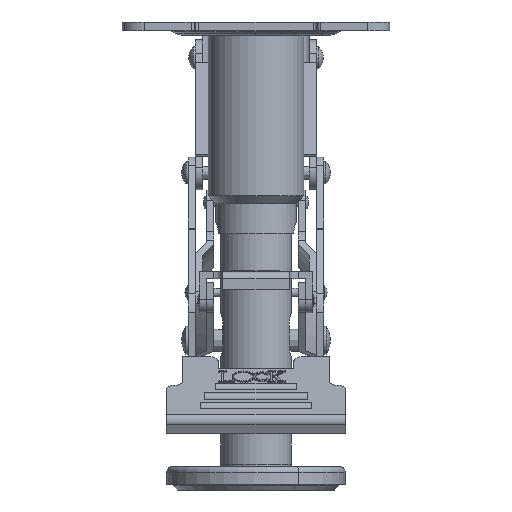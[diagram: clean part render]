
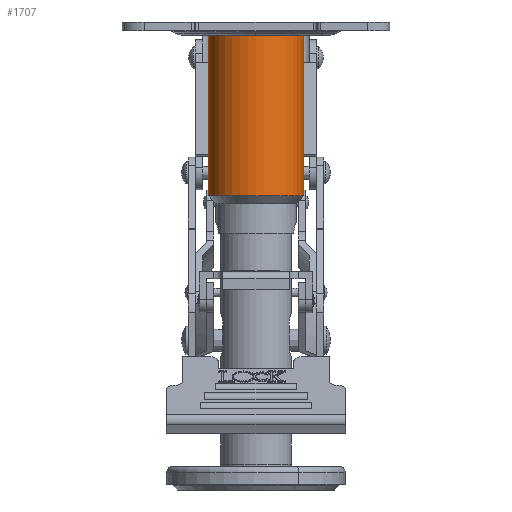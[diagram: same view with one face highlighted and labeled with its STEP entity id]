
A CAD part, front view. The second image highlights one B-rep face of the part: STEP entity #1707.
In plain terms, the highlighted cylindrical face has radius 21.5 mm (diameter 43 mm), a full revolution.
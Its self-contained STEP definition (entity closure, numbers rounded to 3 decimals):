
#1707 = ADVANCED_FACE( '', ( #3477, #3478 ), #3479, .T. );
#3477 = FACE_OUTER_BOUND( '', #7927, .T. );
#3478 = FACE_OUTER_BOUND( '', #7928, .T. );
#3479 = CYLINDRICAL_SURFACE( '', #7929, 21.5 );
#7927 = EDGE_LOOP( '', ( #12475 ) );
#7928 = EDGE_LOOP( '', ( #12476 ) );
#7929 = AXIS2_PLACEMENT_3D( '', #12477, #12478, #12479 );
#12475 = ORIENTED_EDGE( '', *, *, #13996, .T. );
#12476 = ORIENTED_EDGE( '', *, *, #13820, .F. );
#12477 = CARTESIAN_POINT( '', ( 0., 0., -47.5 ) );
#12478 = DIRECTION( '', ( 0., 0., -1. ) );
#12479 = DIRECTION( '', ( 0.479, -0.878, 0. ) );
#13820 = EDGE_CURVE( '', #16300, #16300, #16301, .T. );
#13996 = EDGE_CURVE( '', #16561, #16561, #16562, .T. );
#16300 = VERTEX_POINT( '', #22196 );
#16301 = CIRCLE( '', #22197, 21.5 );
#16561 = VERTEX_POINT( '', #22936 );
#16562 = CIRCLE( '', #22937, 21.5 );
#22196 = CARTESIAN_POINT( '', ( 21.5, 0., -2. ) );
#22197 = AXIS2_PLACEMENT_3D( '', #26095, #26096, #26097 );
#22936 = CARTESIAN_POINT( '', ( 21.5, 0., -78. ) );
#22937 = AXIS2_PLACEMENT_3D( '', #26229, #26230, #26231 );
#26095 = CARTESIAN_POINT( '', ( 0., 0., -2. ) );
#26096 = DIRECTION( '', ( 0., 0., 1. ) );
#26097 = DIRECTION( '', ( 1., 0., 0. ) );
#26229 = CARTESIAN_POINT( '', ( 0., 0., -78. ) );
#26230 = DIRECTION( '', ( 0., 0., 1. ) );
#26231 = DIRECTION( '', ( 1., 0., 0. ) );
